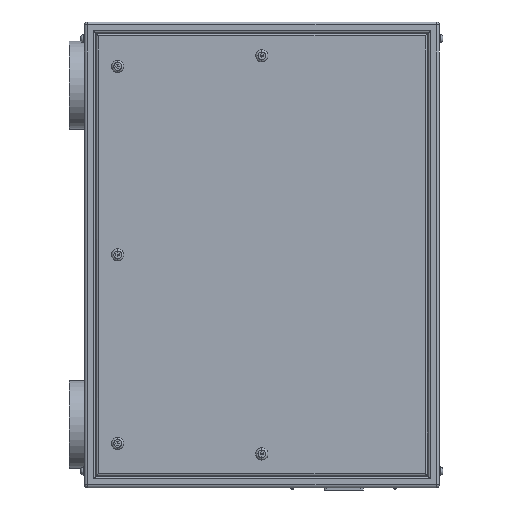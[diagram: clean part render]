
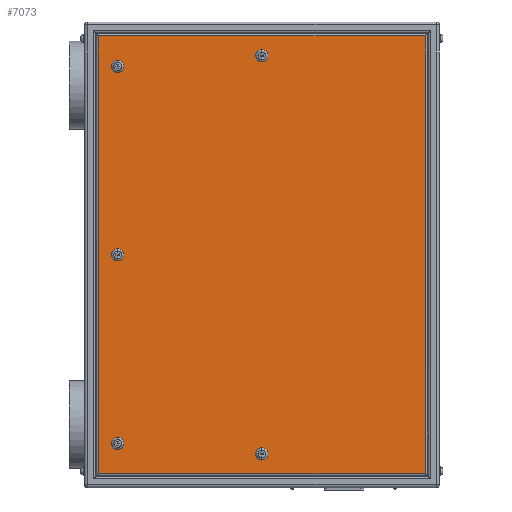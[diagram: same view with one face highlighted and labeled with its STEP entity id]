
A CAD part, left-side view. The second image highlights one B-rep face of the part: STEP entity #7073.
In plain terms, the highlighted planar face has unit normal (-1, 0, 0).
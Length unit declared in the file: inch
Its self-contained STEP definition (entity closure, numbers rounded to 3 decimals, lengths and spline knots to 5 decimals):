
#202 = VECTOR ( 'NONE', #11232, 39.37008 ) ;
#276 = CARTESIAN_POINT ( 'NONE',  ( -9.5, 0., -18.5 ) ) ;
#344 = VERTEX_POINT ( 'NONE', #6640 ) ;
#610 = ORIENTED_EDGE ( 'NONE', *, *, #8060, .T. ) ;
#813 = EDGE_CURVE ( 'NONE', #16082, #12283, #12951, .T. ) ;
#872 = EDGE_CURVE ( 'NONE', #1602, #16851, #5835, .T. ) ;
#891 = CARTESIAN_POINT ( 'NONE',  ( -9.5, 0., 17.4 ) ) ;
#1136 = DIRECTION ( 'NONE',  ( 0., -1., 0. ) ) ;
#1234 = EDGE_CURVE ( 'NONE', #344, #15842, #11887, .T. ) ;
#1339 = LINE ( 'NONE', #6337, #14581 ) ;
#1363 = CARTESIAN_POINT ( 'NONE',  ( -9.5, -14.74, 19.74 ) ) ;
#1523 = VERTEX_POINT ( 'NONE', #3628 ) ;
#1602 = VERTEX_POINT ( 'NONE', #9122 ) ;
#1743 = CARTESIAN_POINT ( 'NONE',  ( -9.5, 13., 17.55 ) ) ;
#1758 = CIRCLE ( 'NONE', #16544, 0.55 ) ;
#1794 = ORIENTED_EDGE ( 'NONE', *, *, #11356, .T. ) ;
#2025 = AXIS2_PLACEMENT_3D ( 'NONE', #15895, #10469, #12981 ) ;
#2026 = VERTEX_POINT ( 'NONE', #3497 ) ;
#2038 = EDGE_CURVE ( 'NONE', #12283, #16082, #8083, .T. ) ;
#2448 = CARTESIAN_POINT ( 'NONE',  ( -9.5, -14.74, -21. ) ) ;
#2463 = EDGE_CURVE ( 'NONE', #11042, #11652, #9454, .T. ) ;
#2882 = FACE_BOUND ( 'NONE', #6293, .T. ) ;
#3013 = DIRECTION ( 'NONE',  ( 0., 0., -1. ) ) ;
#3351 = AXIS2_PLACEMENT_3D ( 'NONE', #7590, #12905, #15727 ) ;
#3394 = EDGE_CURVE ( 'NONE', #14175, #11718, #13459, .T. ) ;
#3413 = EDGE_CURVE ( 'NONE', #1523, #2026, #7458, .T. ) ;
#3497 = CARTESIAN_POINT ( 'NONE',  ( -9.5, 13., 0.55 ) ) ;
#3628 = CARTESIAN_POINT ( 'NONE',  ( -9.5, 13., -0.55 ) ) ;
#3735 = CARTESIAN_POINT ( 'NONE',  ( -9.5, 0., -17.95 ) ) ;
#3900 = DIRECTION ( 'NONE',  ( 0., 0., 1. ) ) ;
#3986 = EDGE_CURVE ( 'NONE', #12143, #11042, #7725, .T. ) ;
#3991 = AXIS2_PLACEMENT_3D ( 'NONE', #11857, #6116, #11339 ) ;
#4076 = DIRECTION ( 'NONE',  ( 0., 0., -1. ) ) ;
#4273 = EDGE_LOOP ( 'NONE', ( #9669, #6844 ) ) ;
#4306 = DIRECTION ( 'NONE',  ( 1., 0., 0. ) ) ;
#4400 = CARTESIAN_POINT ( 'NONE',  ( -9.5, 0., 17.95 ) ) ;
#4458 = AXIS2_PLACEMENT_3D ( 'NONE', #10977, #15959, #3013 ) ;
#4550 = CARTESIAN_POINT ( 'NONE',  ( -9.5, 0., -17.95 ) ) ;
#4721 = DIRECTION ( 'NONE',  ( 0., 0., -1. ) ) ;
#5364 = FACE_BOUND ( 'NONE', #12736, .T. ) ;
#5512 = AXIS2_PLACEMENT_3D ( 'NONE', #10398, #11885, #4076 ) ;
#5835 = CIRCLE ( 'NONE', #15420, 0.55 ) ;
#6116 = DIRECTION ( 'NONE',  ( -1., 0., 0. ) ) ;
#6256 = DIRECTION ( 'NONE',  ( 1., 0., 0. ) ) ;
#6293 = EDGE_LOOP ( 'NONE', ( #610, #13051 ) ) ;
#6296 = EDGE_LOOP ( 'NONE', ( #16808, #9577, #6560, #6710 ) ) ;
#6337 = CARTESIAN_POINT ( 'NONE',  ( -9.5, 16., 19.74 ) ) ;
#6560 = ORIENTED_EDGE ( 'NONE', *, *, #10794, .T. ) ;
#6640 = CARTESIAN_POINT ( 'NONE',  ( -9.5, 0., 18.5 ) ) ;
#6710 = ORIENTED_EDGE ( 'NONE', *, *, #12640, .T. ) ;
#6844 = ORIENTED_EDGE ( 'NONE', *, *, #12304, .F. ) ;
#7073 = ADVANCED_FACE ( 'NONE', ( #2882, #5364, #7769, #10569, #15818, #14442 ), #13316, .F. ) ;
#7111 = CARTESIAN_POINT ( 'NONE',  ( -9.5, 14.74, -21. ) ) ;
#7140 = VECTOR ( 'NONE', #15877, 39.37008 ) ;
#7312 = DIRECTION ( 'NONE',  ( 0., 0., -1. ) ) ;
#7458 = CIRCLE ( 'NONE', #3351, 0.55 ) ;
#7590 = CARTESIAN_POINT ( 'NONE',  ( -9.5, 13., 0. ) ) ;
#7680 = DIRECTION ( 'NONE',  ( 1., 0., 0. ) ) ;
#7725 = LINE ( 'NONE', #10200, #10167 ) ;
#7769 = FACE_BOUND ( 'NONE', #11506, .T. ) ;
#8060 = EDGE_CURVE ( 'NONE', #11718, #14175, #16499, .T. ) ;
#8083 = CIRCLE ( 'NONE', #14651, 0.55 ) ;
#8092 = ORIENTED_EDGE ( 'NONE', *, *, #3413, .T. ) ;
#8260 = DIRECTION ( 'NONE',  ( 0., 0., 1. ) ) ;
#8934 = CARTESIAN_POINT ( 'NONE',  ( -9.5, 13., -16.45 ) ) ;
#9015 = ORIENTED_EDGE ( 'NONE', *, *, #11150, .T. ) ;
#9122 = CARTESIAN_POINT ( 'NONE',  ( -9.5, 13., -17.55 ) ) ;
#9454 = LINE ( 'NONE', #2448, #7140 ) ;
#9577 = ORIENTED_EDGE ( 'NONE', *, *, #2463, .T. ) ;
#9669 = ORIENTED_EDGE ( 'NONE', *, *, #872, .F. ) ;
#9741 = ORIENTED_EDGE ( 'NONE', *, *, #2038, .T. ) ;
#9805 = CARTESIAN_POINT ( 'NONE',  ( -9.5, 14.74, -19.74 ) ) ;
#9861 = CARTESIAN_POINT ( 'NONE',  ( -9.5, 13., -17. ) ) ;
#9862 = ORIENTED_EDGE ( 'NONE', *, *, #813, .T. ) ;
#10167 = VECTOR ( 'NONE', #1136, 39.37008 ) ;
#10200 = CARTESIAN_POINT ( 'NONE',  ( -9.5, 16., -19.74 ) ) ;
#10398 = CARTESIAN_POINT ( 'NONE',  ( -9.5, 16., -21. ) ) ;
#10404 = DIRECTION ( 'NONE',  ( 0., 1., 0. ) ) ;
#10469 = DIRECTION ( 'NONE',  ( 1., 0., 0. ) ) ;
#10569 = FACE_BOUND ( 'NONE', #4273, .T. ) ;
#10794 = EDGE_CURVE ( 'NONE', #11652, #15729, #1339, .T. ) ;
#10977 = CARTESIAN_POINT ( 'NONE',  ( -9.5, 13., 17. ) ) ;
#11042 = VERTEX_POINT ( 'NONE', #11551 ) ;
#11150 = EDGE_CURVE ( 'NONE', #15842, #344, #14876, .T. ) ;
#11232 = DIRECTION ( 'NONE',  ( 0., 0., -1. ) ) ;
#11269 = DIRECTION ( 'NONE',  ( 1., 0., 0. ) ) ;
#11339 = DIRECTION ( 'NONE',  ( 0., 0., -1. ) ) ;
#11356 = EDGE_CURVE ( 'NONE', #2026, #1523, #1758, .T. ) ;
#11506 = EDGE_LOOP ( 'NONE', ( #8092, #1794 ) ) ;
#11551 = CARTESIAN_POINT ( 'NONE',  ( -9.5, -14.74, -19.74 ) ) ;
#11652 = VERTEX_POINT ( 'NONE', #1363 ) ;
#11718 = VERTEX_POINT ( 'NONE', #276 ) ;
#11824 = EDGE_LOOP ( 'NONE', ( #9862, #9741 ) ) ;
#11854 = DIRECTION ( 'NONE',  ( 1., 0., 0. ) ) ;
#11857 = CARTESIAN_POINT ( 'NONE',  ( -9.5, 13., -17. ) ) ;
#11885 = DIRECTION ( 'NONE',  ( 1., 0., 0. ) ) ;
#11887 = CIRCLE ( 'NONE', #2025, 0.55 ) ;
#11941 = CARTESIAN_POINT ( 'NONE',  ( -9.5, 14.74, 19.74 ) ) ;
#12086 = CARTESIAN_POINT ( 'NONE',  ( -9.5, 13., 16.45 ) ) ;
#12143 = VERTEX_POINT ( 'NONE', #9805 ) ;
#12283 = VERTEX_POINT ( 'NONE', #1743 ) ;
#12304 = EDGE_CURVE ( 'NONE', #16851, #1602, #13564, .T. ) ;
#12409 = CARTESIAN_POINT ( 'NONE',  ( -9.5, 13., 17. ) ) ;
#12412 = AXIS2_PLACEMENT_3D ( 'NONE', #4400, #11269, #7312 ) ;
#12491 = DIRECTION ( 'NONE',  ( 0., 0., -1. ) ) ;
#12598 = DIRECTION ( 'NONE',  ( -1., 0., 0. ) ) ;
#12640 = EDGE_CURVE ( 'NONE', #15729, #12143, #16360, .T. ) ;
#12665 = AXIS2_PLACEMENT_3D ( 'NONE', #4550, #4306, #8260 ) ;
#12736 = EDGE_LOOP ( 'NONE', ( #9015, #16633 ) ) ;
#12905 = DIRECTION ( 'NONE',  ( 1., 0., 0. ) ) ;
#12927 = CARTESIAN_POINT ( 'NONE',  ( -9.5, 0., -17.4 ) ) ;
#12951 = CIRCLE ( 'NONE', #4458, 0.55 ) ;
#12981 = DIRECTION ( 'NONE',  ( 0., 0., -1. ) ) ;
#13051 = ORIENTED_EDGE ( 'NONE', *, *, #3394, .T. ) ;
#13316 = PLANE ( 'NONE',  #5512 ) ;
#13459 = CIRCLE ( 'NONE', #15937, 0.55 ) ;
#13564 = CIRCLE ( 'NONE', #3991, 0.55 ) ;
#14175 = VERTEX_POINT ( 'NONE', #12927 ) ;
#14442 = FACE_OUTER_BOUND ( 'NONE', #6296, .T. ) ;
#14581 = VECTOR ( 'NONE', #10404, 39.37008 ) ;
#14586 = CARTESIAN_POINT ( 'NONE',  ( -9.5, 13., 0. ) ) ;
#14651 = AXIS2_PLACEMENT_3D ( 'NONE', #12409, #6256, #12491 ) ;
#14876 = CIRCLE ( 'NONE', #12412, 0.55 ) ;
#15420 = AXIS2_PLACEMENT_3D ( 'NONE', #9861, #12598, #4721 ) ;
#15709 = DIRECTION ( 'NONE',  ( 0., 0., -1. ) ) ;
#15727 = DIRECTION ( 'NONE',  ( 0., 0., -1. ) ) ;
#15729 = VERTEX_POINT ( 'NONE', #11941 ) ;
#15818 = FACE_BOUND ( 'NONE', #11824, .T. ) ;
#15842 = VERTEX_POINT ( 'NONE', #891 ) ;
#15877 = DIRECTION ( 'NONE',  ( 0., 0., 1. ) ) ;
#15895 = CARTESIAN_POINT ( 'NONE',  ( -9.5, 0., 17.95 ) ) ;
#15937 = AXIS2_PLACEMENT_3D ( 'NONE', #3735, #7680, #3900 ) ;
#15959 = DIRECTION ( 'NONE',  ( 1., 0., 0. ) ) ;
#16082 = VERTEX_POINT ( 'NONE', #12086 ) ;
#16360 = LINE ( 'NONE', #7111, #202 ) ;
#16499 = CIRCLE ( 'NONE', #12665, 0.55 ) ;
#16544 = AXIS2_PLACEMENT_3D ( 'NONE', #14586, #11854, #15709 ) ;
#16633 = ORIENTED_EDGE ( 'NONE', *, *, #1234, .T. ) ;
#16808 = ORIENTED_EDGE ( 'NONE', *, *, #3986, .T. ) ;
#16851 = VERTEX_POINT ( 'NONE', #8934 ) ;
